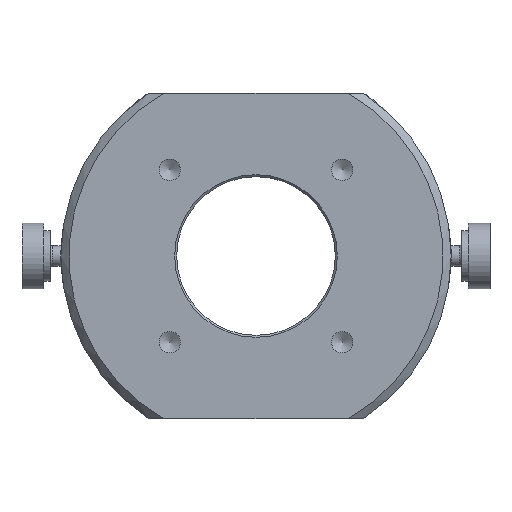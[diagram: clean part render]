
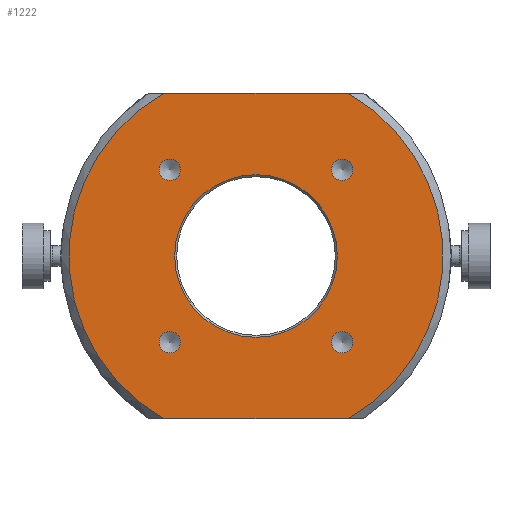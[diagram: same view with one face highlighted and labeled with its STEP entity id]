
A CAD part, front view. The second image highlights one B-rep face of the part: STEP entity #1222.
In plain terms, the highlighted planar face has unit normal (0, -1, 0).
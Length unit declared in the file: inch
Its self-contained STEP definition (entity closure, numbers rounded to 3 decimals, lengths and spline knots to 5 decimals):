
#32 = AXIS2_PLACEMENT_3D ( 'NONE', #3470, #5191, #1352 ) ;
#56 = EDGE_CURVE ( 'NONE', #2206, #3933, #2152, .T. ) ;
#103 = CARTESIAN_POINT ( 'NONE',  ( -0.66291, 0., -0.74559 ) ) ;
#183 = CARTESIAN_POINT ( 'NONE',  ( 0., 0., 0. ) ) ;
#219 = AXIS2_PLACEMENT_3D ( 'NONE', #2866, #742, #1555 ) ;
#223 = VERTEX_POINT ( 'NONE', #1945 ) ;
#346 = DIRECTION ( 'NONE',  ( 0., 0., -1. ) ) ;
#383 = AXIS2_PLACEMENT_3D ( 'NONE', #2909, #4675, #3013 ) ;
#384 = DIRECTION ( 'NONE',  ( 0., 1., 0. ) ) ;
#452 = CARTESIAN_POINT ( 'NONE',  ( -0.82916, 0., -1.25 ) ) ;
#470 = CIRCLE ( 'NONE', #383, 1.438 ) ;
#523 = ORIENTED_EDGE ( 'NONE', *, *, #56, .T. ) ;
#538 = EDGE_LOOP ( 'NONE', ( #967 ) ) ;
#580 = VECTOR ( 'NONE', #4211, 39.37008 ) ;
#742 = DIRECTION ( 'NONE',  ( 0., -1., 0. ) ) ;
#772 = ORIENTED_EDGE ( 'NONE', *, *, #5214, .F. ) ;
#967 = ORIENTED_EDGE ( 'NONE', *, *, #3618, .F. ) ;
#1010 = CARTESIAN_POINT ( 'NONE',  ( 0.71088, 0., 1.25 ) ) ;
#1032 = DIRECTION ( 'NONE',  ( 0., 0., 1. ) ) ;
#1049 = EDGE_LOOP ( 'NONE', ( #3412 ) ) ;
#1163 = VERTEX_POINT ( 'NONE', #2540 ) ;
#1198 = FACE_BOUND ( 'NONE', #1049, .T. ) ;
#1207 = AXIS2_PLACEMENT_3D ( 'NONE', #3930, #1807, #5222 ) ;
#1222 = ADVANCED_FACE ( 'NONE', ( #2189, #1762, #1198, #2908, #5063, #1653 ), #4650, .F. ) ;
#1269 = CARTESIAN_POINT ( 'NONE',  ( -0.82916, 0., 1.25 ) ) ;
#1283 = VERTEX_POINT ( 'NONE', #2991 ) ;
#1289 = LINE ( 'NONE', #452, #580 ) ;
#1352 = DIRECTION ( 'NONE',  ( 0., 0., 1. ) ) ;
#1389 = CIRCLE ( 'NONE', #1207, 0.08268 ) ;
#1453 = ORIENTED_EDGE ( 'NONE', *, *, #3318, .T. ) ;
#1555 = DIRECTION ( 'NONE',  ( 0., 0., -1. ) ) ;
#1565 = EDGE_CURVE ( 'NONE', #1163, #2206, #470, .T. ) ;
#1608 = ORIENTED_EDGE ( 'NONE', *, *, #4018, .T. ) ;
#1653 = FACE_OUTER_BOUND ( 'NONE', #4178, .T. ) ;
#1686 = VERTEX_POINT ( 'NONE', #2053 ) ;
#1762 = FACE_BOUND ( 'NONE', #5353, .T. ) ;
#1773 = CIRCLE ( 'NONE', #4904, 0.08268 ) ;
#1807 = DIRECTION ( 'NONE',  ( 0., -1., 0. ) ) ;
#1821 = EDGE_LOOP ( 'NONE', ( #4838 ) ) ;
#1827 = CARTESIAN_POINT ( 'NONE',  ( -0.71088, 0., 1.25 ) ) ;
#1945 = CARTESIAN_POINT ( 'NONE',  ( 0.66291, 0., -0.74559 ) ) ;
#1994 = CARTESIAN_POINT ( 'NONE',  ( -0.71088, 0., -1.25 ) ) ;
#2039 = CIRCLE ( 'NONE', #4179, 0.625 ) ;
#2053 = CARTESIAN_POINT ( 'NONE',  ( -0.66291, 0., 0.58024 ) ) ;
#2058 = EDGE_CURVE ( 'NONE', #2660, #2660, #1773, .T. ) ;
#2152 = LINE ( 'NONE', #1269, #5459 ) ;
#2189 = FACE_BOUND ( 'NONE', #3700, .T. ) ;
#2206 = VERTEX_POINT ( 'NONE', #1010 ) ;
#2514 = CARTESIAN_POINT ( 'NONE',  ( 0., 0., 0. ) ) ;
#2540 = CARTESIAN_POINT ( 'NONE',  ( 0.71088, 0., -1.25 ) ) ;
#2575 = DIRECTION ( 'NONE',  ( 0., 0., -1. ) ) ;
#2660 = VERTEX_POINT ( 'NONE', #103 ) ;
#2824 = CARTESIAN_POINT ( 'NONE',  ( 0.66291, 0., 0.58024 ) ) ;
#2866 = CARTESIAN_POINT ( 'NONE',  ( 0.66291, 0., 0.66291 ) ) ;
#2908 = FACE_BOUND ( 'NONE', #538, .T. ) ;
#2909 = CARTESIAN_POINT ( 'NONE',  ( 0., 0., 0. ) ) ;
#2950 = ORIENTED_EDGE ( 'NONE', *, *, #3847, .T. ) ;
#2991 = CARTESIAN_POINT ( 'NONE',  ( 0., 0., 0.625 ) ) ;
#3013 = DIRECTION ( 'NONE',  ( 0., 0., 1. ) ) ;
#3021 = CARTESIAN_POINT ( 'NONE',  ( -0.66291, 0., -0.66291 ) ) ;
#3058 = DIRECTION ( 'NONE',  ( -1., 0., 0. ) ) ;
#3121 = DIRECTION ( 'NONE',  ( 0., 1., 0. ) ) ;
#3240 = VERTEX_POINT ( 'NONE', #2824 ) ;
#3254 = CIRCLE ( 'NONE', #32, 1.438 ) ;
#3318 = EDGE_CURVE ( 'NONE', #1283, #1283, #2039, .T. ) ;
#3412 = ORIENTED_EDGE ( 'NONE', *, *, #2058, .F. ) ;
#3470 = CARTESIAN_POINT ( 'NONE',  ( 0., 0., 0. ) ) ;
#3568 = ORIENTED_EDGE ( 'NONE', *, *, #1565, .T. ) ;
#3615 = CIRCLE ( 'NONE', #219, 0.08268 ) ;
#3618 = EDGE_CURVE ( 'NONE', #223, #223, #1389, .T. ) ;
#3700 = EDGE_LOOP ( 'NONE', ( #1453 ) ) ;
#3847 = EDGE_CURVE ( 'NONE', #4718, #1163, #1289, .T. ) ;
#3930 = CARTESIAN_POINT ( 'NONE',  ( 0.66291, 0., -0.66291 ) ) ;
#3933 = VERTEX_POINT ( 'NONE', #1827 ) ;
#4017 = DIRECTION ( 'NONE',  ( 0., 0., 1. ) ) ;
#4018 = EDGE_CURVE ( 'NONE', #3933, #4718, #3254, .T. ) ;
#4058 = EDGE_CURVE ( 'NONE', #3240, #3240, #3615, .T. ) ;
#4177 = CIRCLE ( 'NONE', #5070, 0.08268 ) ;
#4178 = EDGE_LOOP ( 'NONE', ( #1608, #2950, #3568, #523 ) ) ;
#4179 = AXIS2_PLACEMENT_3D ( 'NONE', #183, #3121, #4017 ) ;
#4211 = DIRECTION ( 'NONE',  ( 1., 0., 0. ) ) ;
#4650 = PLANE ( 'NONE',  #5384 ) ;
#4658 = DIRECTION ( 'NONE',  ( 0., -1., 0. ) ) ;
#4675 = DIRECTION ( 'NONE',  ( 0., -1., 0. ) ) ;
#4718 = VERTEX_POINT ( 'NONE', #1994 ) ;
#4838 = ORIENTED_EDGE ( 'NONE', *, *, #4058, .F. ) ;
#4904 = AXIS2_PLACEMENT_3D ( 'NONE', #3021, #4658, #2575 ) ;
#5063 = FACE_BOUND ( 'NONE', #1821, .T. ) ;
#5070 = AXIS2_PLACEMENT_3D ( 'NONE', #5470, #5523, #346 ) ;
#5191 = DIRECTION ( 'NONE',  ( 0., -1., 0. ) ) ;
#5214 = EDGE_CURVE ( 'NONE', #1686, #1686, #4177, .T. ) ;
#5222 = DIRECTION ( 'NONE',  ( 0., 0., -1. ) ) ;
#5353 = EDGE_LOOP ( 'NONE', ( #772 ) ) ;
#5384 = AXIS2_PLACEMENT_3D ( 'NONE', #2514, #384, #1032 ) ;
#5459 = VECTOR ( 'NONE', #3058, 39.37008 ) ;
#5470 = CARTESIAN_POINT ( 'NONE',  ( -0.66291, 0., 0.66291 ) ) ;
#5523 = DIRECTION ( 'NONE',  ( 0., -1., 0. ) ) ;
